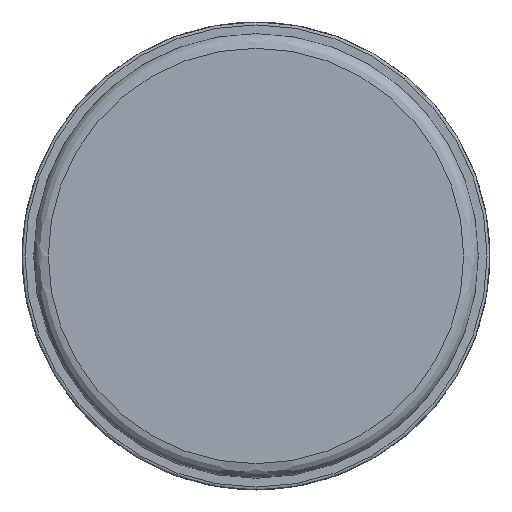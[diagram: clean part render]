
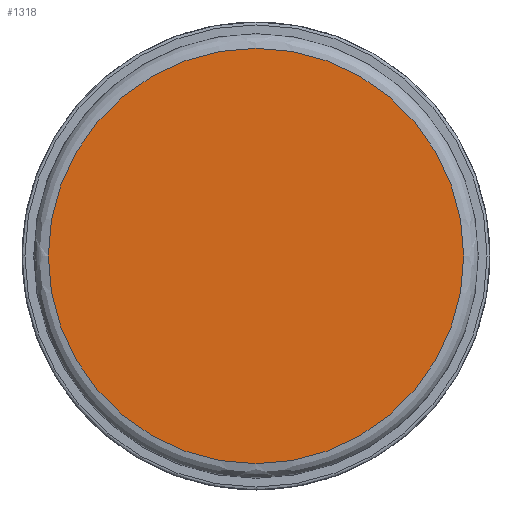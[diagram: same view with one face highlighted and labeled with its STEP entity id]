
A CAD part, left-side view. The second image highlights one B-rep face of the part: STEP entity #1318.
In plain terms, the highlighted planar face has unit normal (-1, 0, 0).
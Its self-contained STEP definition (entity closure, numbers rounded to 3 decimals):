
#1293=CARTESIAN_POINT('',(-437.562,-533.71,24.288));
#1294=DIRECTION('',(-1.0,0.0,0.0));
#1295=DIRECTION('',(0.0,1.0,0.0));
#1296=AXIS2_PLACEMENT_3D('',#1293,#1294,#1295);
#1297=PLANE('',#1296);
#1298=CARTESIAN_POINT('',(-437.562,-452.609,-21.312));
#1299=VERTEX_POINT('',#1298);
#1300=CARTESIAN_POINT('',(-437.562,-523.609,-21.312));
#1301=VERTEX_POINT('',#1300);
#1302=CARTESIAN_POINT('',(-437.562,-488.109,-21.312));
#1303=DIRECTION('',(-1.0,0.0,0.0));
#1304=DIRECTION('',(0.0,1.0,0.0));
#1305=AXIS2_PLACEMENT_3D('',#1302,#1303,#1304);
#1306=CIRCLE('',#1305,35.5);
#1307=EDGE_CURVE('',#1299,#1301,#1306,.T.);
#1308=ORIENTED_EDGE('',*,*,#1307,.T.);
#1309=CARTESIAN_POINT('',(-437.562,-488.109,-21.312));
#1310=DIRECTION('',(-1.0,0.0,0.0));
#1311=DIRECTION('',(0.0,1.0,0.0));
#1312=AXIS2_PLACEMENT_3D('',#1309,#1310,#1311);
#1313=CIRCLE('',#1312,35.5);
#1314=EDGE_CURVE('',#1301,#1299,#1313,.T.);
#1315=ORIENTED_EDGE('',*,*,#1314,.T.);
#1316=EDGE_LOOP('',(#1308,#1315));
#1317=FACE_OUTER_BOUND('',#1316,.T.);
#1318=ADVANCED_FACE('',(#1317),#1297,.T.);
